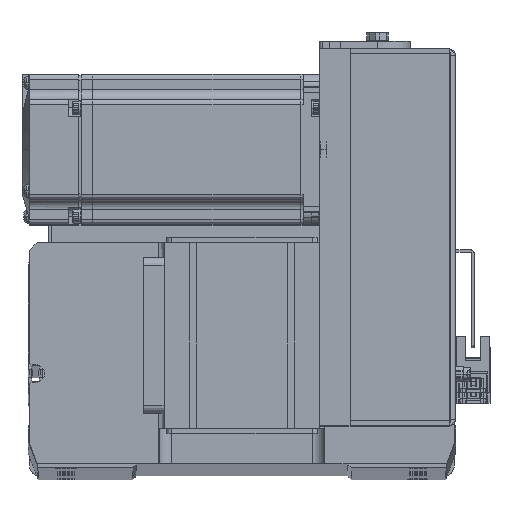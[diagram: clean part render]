
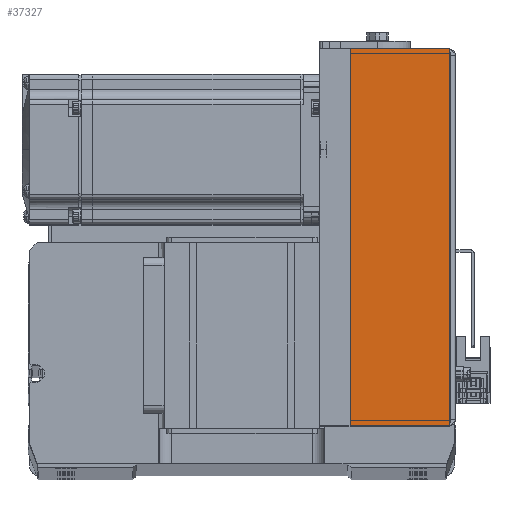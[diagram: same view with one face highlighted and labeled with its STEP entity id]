
A CAD part, top view. The second image highlights one B-rep face of the part: STEP entity #37327.
In plain terms, the highlighted planar face has unit normal (0, 0, 1) as drawn and (0, -1, 0) by its records, which use the part's own axes.
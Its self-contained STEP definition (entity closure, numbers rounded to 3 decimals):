
#979 = LINE ( 'NONE', #1395, #34452 ) ;
#1395 = CARTESIAN_POINT ( 'NONE',  ( -75., -36., 51.5 ) ) ;
#3367 = CARTESIAN_POINT ( 'NONE',  ( 75., -36., 12. ) ) ;
#3460 = CARTESIAN_POINT ( 'NONE',  ( 0., -36., 52. ) ) ;
#5160 = ORIENTED_EDGE ( 'NONE', *, *, #36236, .F. ) ;
#8677 = CARTESIAN_POINT ( 'NONE',  ( 75., -36., 51.5 ) ) ;
#10027 = CARTESIAN_POINT ( 'NONE',  ( 75., -36., 51.5 ) ) ;
#10873 = VERTEX_POINT ( 'NONE', #14669 ) ;
#11069 = VECTOR ( 'NONE', #41882, 1000. ) ;
#11265 = VERTEX_POINT ( 'NONE', #3367 ) ;
#13345 = EDGE_LOOP ( 'NONE', ( #5160, #20069, #25085, #25927 ) ) ;
#13892 = VECTOR ( 'NONE', #37763, 1000. ) ;
#14669 = CARTESIAN_POINT ( 'NONE',  ( -75., -36., 51.5 ) ) ;
#17346 = AXIS2_PLACEMENT_3D ( 'NONE', #3460, #25924, #29982 ) ;
#18703 = EDGE_CURVE ( 'NONE', #31761, #11265, #42218, .T. ) ;
#20069 = ORIENTED_EDGE ( 'NONE', *, *, #30429, .T. ) ;
#25085 = ORIENTED_EDGE ( 'NONE', *, *, #18703, .T. ) ;
#25788 = CARTESIAN_POINT ( 'NONE',  ( -75., -36., 12. ) ) ;
#25924 = DIRECTION ( 'NONE',  ( 0., 1., 0. ) ) ;
#25927 = ORIENTED_EDGE ( 'NONE', *, *, #29432, .F. ) ;
#26073 = LINE ( 'NONE', #10027, #11069 ) ;
#26780 = FACE_OUTER_BOUND ( 'NONE', #13345, .T. ) ;
#28702 = VERTEX_POINT ( 'NONE', #31861 ) ;
#29399 = CARTESIAN_POINT ( 'NONE',  ( 0., -36., 12. ) ) ;
#29432 = EDGE_CURVE ( 'NONE', #28702, #11265, #30927, .T. ) ;
#29982 = DIRECTION ( 'NONE',  ( 0., 0., -1. ) ) ;
#30429 = EDGE_CURVE ( 'NONE', #10873, #31761, #979, .T. ) ;
#30927 = LINE ( 'NONE', #8677, #13892 ) ;
#31761 = VERTEX_POINT ( 'NONE', #25788 ) ;
#31861 = CARTESIAN_POINT ( 'NONE',  ( 75., -36., 51.5 ) ) ;
#34452 = VECTOR ( 'NONE', #40348, 1000. ) ;
#35603 = VECTOR ( 'NONE', #38798, 1000. ) ;
#35977 = PLANE ( 'NONE',  #17346 ) ;
#36236 = EDGE_CURVE ( 'NONE', #10873, #28702, #26073, .T. ) ;
#37327 = ADVANCED_FACE ( 'NONE', ( #26780 ), #35977, .F. ) ;
#37763 = DIRECTION ( 'NONE',  ( 0., 0., -1. ) ) ;
#38798 = DIRECTION ( 'NONE',  ( 1., 0., 0. ) ) ;
#40348 = DIRECTION ( 'NONE',  ( 0., 0., -1. ) ) ;
#41882 = DIRECTION ( 'NONE',  ( 1., 0., 0. ) ) ;
#42218 = LINE ( 'NONE', #29399, #35603 ) ;
